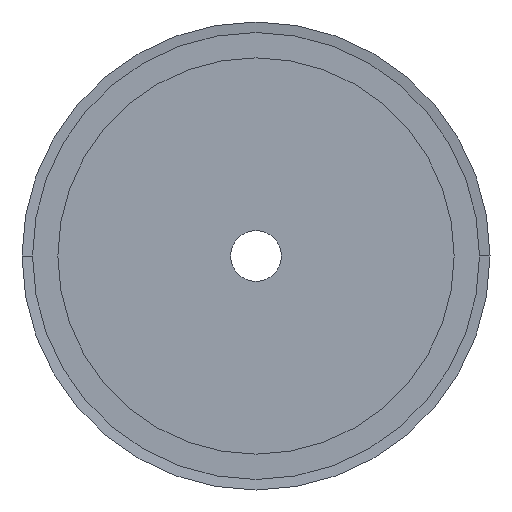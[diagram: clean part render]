
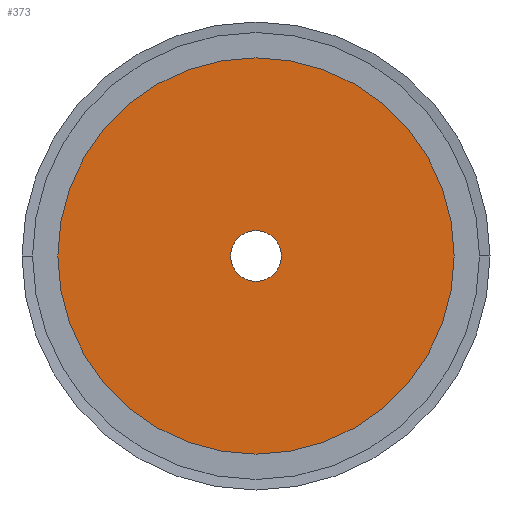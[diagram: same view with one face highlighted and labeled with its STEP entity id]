
A CAD part, left-side view. The second image highlights one B-rep face of the part: STEP entity #373.
In plain terms, the highlighted planar face has unit normal (-1, 0, 0).
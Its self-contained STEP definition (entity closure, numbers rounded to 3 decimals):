
#373 = ADVANCED_FACE( '', ( #977, #978 ), #979, .T. );
#977 = FACE_BOUND( '', #1582, .T. );
#978 = FACE_OUTER_BOUND( '', #1583, .T. );
#979 = PLANE( '', #1584 );
#1582 = EDGE_LOOP( '', ( #4211, #4212 ) );
#1583 = EDGE_LOOP( '', ( #4213, #4214 ) );
#1584 = AXIS2_PLACEMENT_3D( '', #4215, #4216, #4217 );
#4211 = ORIENTED_EDGE( '', *, *, #4257, .T. );
#4212 = ORIENTED_EDGE( '', *, *, #4253, .T. );
#4213 = ORIENTED_EDGE( '', *, *, #4221, .T. );
#4214 = ORIENTED_EDGE( '', *, *, #5085, .T. );
#4215 = CARTESIAN_POINT( '', ( 0., 23.5, 0. ) );
#4216 = DIRECTION( '', ( -1., 0., 0. ) );
#4217 = DIRECTION( '', ( 0., 1., 0. ) );
#4221 = EDGE_CURVE( '', #5087, #5091, #5093, .T. );
#4253 = EDGE_CURVE( '', #5151, #5148, #5152, .T. );
#4257 = EDGE_CURVE( '', #5148, #5151, #5157, .T. );
#5085 = EDGE_CURVE( '', #5091, #5087, #6529, .T. );
#5087 = VERTEX_POINT( '', #6531 );
#5091 = VERTEX_POINT( '', #6536 );
#5093 = CIRCLE( '', #6539, 47. );
#5148 = VERTEX_POINT( '', #6610 );
#5151 = VERTEX_POINT( '', #6614 );
#5152 = CIRCLE( '', #6615, 6. );
#5157 = CIRCLE( '', #6621, 6. );
#6529 = CIRCLE( '', #8469, 47. );
#6531 = CARTESIAN_POINT( '', ( 0., 47., 0. ) );
#6536 = CARTESIAN_POINT( '', ( 0., -47., 0. ) );
#6539 = AXIS2_PLACEMENT_3D( '', #8475, #8476, #8477 );
#6610 = CARTESIAN_POINT( '', ( 0., 6., 0. ) );
#6614 = CARTESIAN_POINT( '', ( 0., -6., 0. ) );
#6615 = AXIS2_PLACEMENT_3D( '', #8537, #8538, #8539 );
#6621 = AXIS2_PLACEMENT_3D( '', #8547, #8548, #8549 );
#8469 = AXIS2_PLACEMENT_3D( '', #10079, #10080, #10081 );
#8475 = CARTESIAN_POINT( '', ( 0., 0., 0. ) );
#8476 = DIRECTION( '', ( -1., 0., 0. ) );
#8477 = DIRECTION( '', ( 0., 1., 0. ) );
#8537 = CARTESIAN_POINT( '', ( 0., 0., 0. ) );
#8538 = DIRECTION( '', ( 1., 0., 0. ) );
#8539 = DIRECTION( '', ( 0., 1., 0. ) );
#8547 = CARTESIAN_POINT( '', ( 0., 0., 0. ) );
#8548 = DIRECTION( '', ( 1., 0., 0. ) );
#8549 = DIRECTION( '', ( 0., 1., 0. ) );
#10079 = CARTESIAN_POINT( '', ( 0., 0., 0. ) );
#10080 = DIRECTION( '', ( -1., 0., 0. ) );
#10081 = DIRECTION( '', ( 0., 1., 0. ) );
